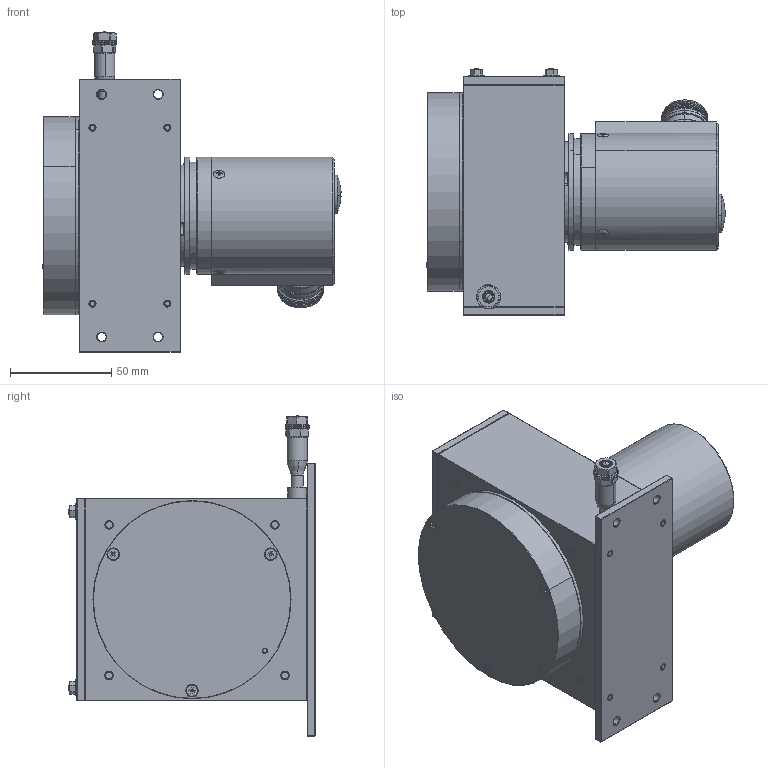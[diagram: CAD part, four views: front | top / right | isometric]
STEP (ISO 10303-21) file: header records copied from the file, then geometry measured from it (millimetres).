
FILE_DESCRIPTION (( 'STEP AP214' ), '1' );
FILE_NAME ('WDS-90A2_04A.A06.STEP', '2025-06-16T12:26:56', ( '' ), ( '' ), 'SwSTEP 2.0', 'SolidWorks 2019', '' );
FILE_SCHEMA (( 'AUTOMOTIVE_DESIGN' ));
Length unit declared in the file: millimetre
Products named in the file (1): WDS-90A2_04A.A06
Bounding box: 147.44 x 122 x 158.42 mm (x, y, z)
Volume: 342352.2 mm3; surface area: 170340.9 mm2
Topology: 1 solids, 19 shells, 2280 faces, 5390 edges, 3214 vertices
Faces by surface type: plane 743, cone 640, cylinder 607, torus 116, bspline 98, sphere 76
Entity records: 101607 total; most frequent: CARTESIAN_POINT 24132, DIRECTION 11539, ORIENTED_EDGE 10626, EDGE_CURVE 5313, AXIS2_PLACEMENT_3D 4666, VERTEX_POINT 3213, EDGE_LOOP 2544, CIRCLE 2483
